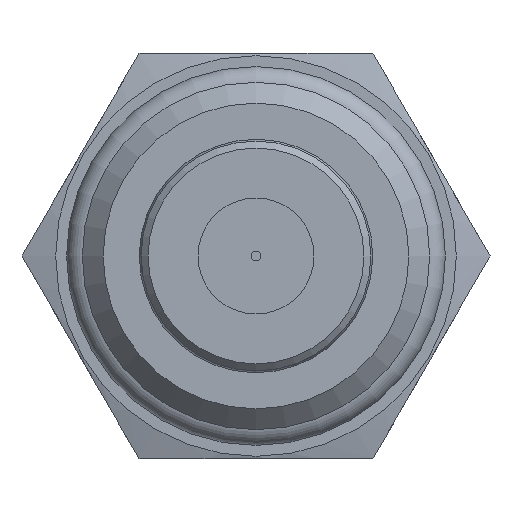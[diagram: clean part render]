
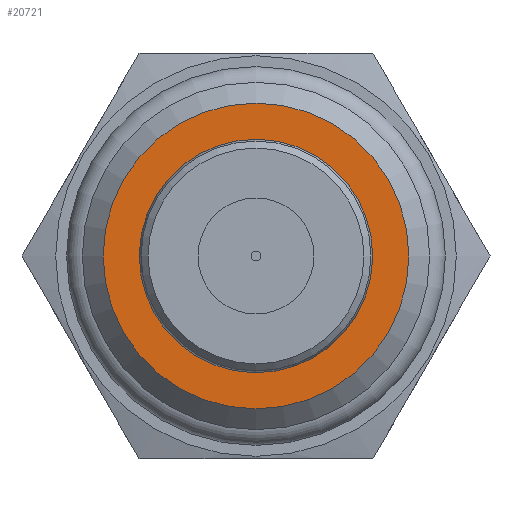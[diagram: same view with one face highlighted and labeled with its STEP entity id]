
A CAD part, front view. The second image highlights one B-rep face of the part: STEP entity #20721.
In plain terms, the highlighted planar face has unit normal (0, -1, 0).
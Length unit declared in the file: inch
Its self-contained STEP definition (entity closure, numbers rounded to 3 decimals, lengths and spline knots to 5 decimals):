
#413=FACE_BOUND('',#6921,.T.);
#4840=PLANE('',#22054);
#5820=FACE_OUTER_BOUND('',#6920,.T.);
#6920=EDGE_LOOP('',(#17675));
#6921=EDGE_LOOP('',(#17676,#17677));
#7450=CIRCLE('',#22005,0.248);
#7451=CIRCLE('',#22006,0.248);
#7482=CIRCLE('',#22050,0.33);
#9340=VERTEX_POINT('',#35181);
#9341=VERTEX_POINT('',#35183);
#9369=VERTEX_POINT('',#35263);
#12165=EDGE_CURVE('',#9341,#9340,#7450,.T.);
#12166=EDGE_CURVE('',#9340,#9341,#7451,.T.);
#12205=EDGE_CURVE('',#9369,#9369,#7482,.T.);
#17675=ORIENTED_EDGE('',*,*,#12205,.F.);
#17676=ORIENTED_EDGE('',*,*,#12165,.T.);
#17677=ORIENTED_EDGE('',*,*,#12166,.T.);
#20721=ADVANCED_FACE('',(#5820,#413),#4840,.F.);
#22005=AXIS2_PLACEMENT_3D('',#35184,#25732,#25733);
#22006=AXIS2_PLACEMENT_3D('',#35185,#25734,#25735);
#22050=AXIS2_PLACEMENT_3D('',#35265,#25830,#25831);
#22054=AXIS2_PLACEMENT_3D('',#35272,#25839,#25840);
#25732=DIRECTION('center_axis',(0.,1.,0.));
#25733=DIRECTION('ref_axis',(-1.,0.,0.));
#25734=DIRECTION('center_axis',(0.,1.,0.));
#25735=DIRECTION('ref_axis',(-1.,0.,0.));
#25830=DIRECTION('center_axis',(0.,1.,0.));
#25831=DIRECTION('ref_axis',(1.,0.,0.));
#25839=DIRECTION('center_axis',(0.,1.,0.));
#25840=DIRECTION('ref_axis',(0.,0.,-1.));
#35181=CARTESIAN_POINT('',(0.248,-0.8,0.));
#35183=CARTESIAN_POINT('',(-0.248,-0.8,0.));
#35184=CARTESIAN_POINT('Origin',(0.,-0.8,0.));
#35185=CARTESIAN_POINT('Origin',(0.,-0.8,0.));
#35263=CARTESIAN_POINT('',(-0.33,-0.8,0.));
#35265=CARTESIAN_POINT('Origin',(0.,-0.8,0.));
#35272=CARTESIAN_POINT('Origin',(-0.3115,-0.8,0.));
